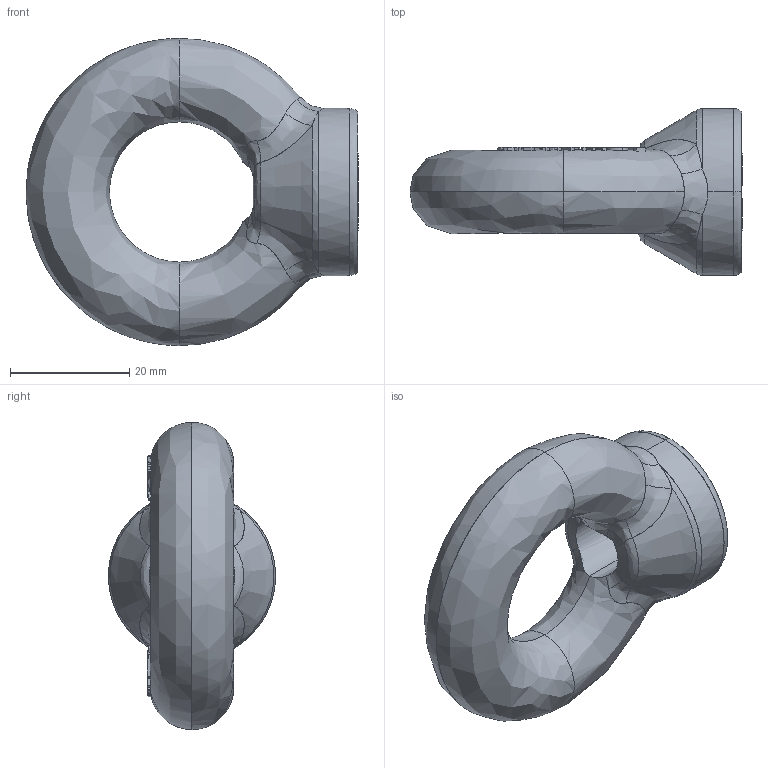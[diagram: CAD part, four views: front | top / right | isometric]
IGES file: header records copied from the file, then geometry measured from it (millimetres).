
Start section: SolidWorks IGES FILE using analytic representation for surfaces
Global section: file name: C:\Documents and Settings\Townley Workstation\Desktop\tooling\Townley products\Eye nuts\ENB12\Model\Finished part drawing\ENMC12.IGS; native system: SolidWorks 2004 by SolidWorks Corporation; preprocessor: Version 5.3; author: Townley Workstation; date: 100212.125841; units: millimetre
Bounding box: 55.65 x 28 x 51.5 mm (x, y, z)
Surface area: 6760.9 mm2 (no closed solid volume)
Topology: 0 solids, 0 shells, 221 faces, 2392 edges, 2392 vertices
Faces by surface type: bspline 211, revolution 10
